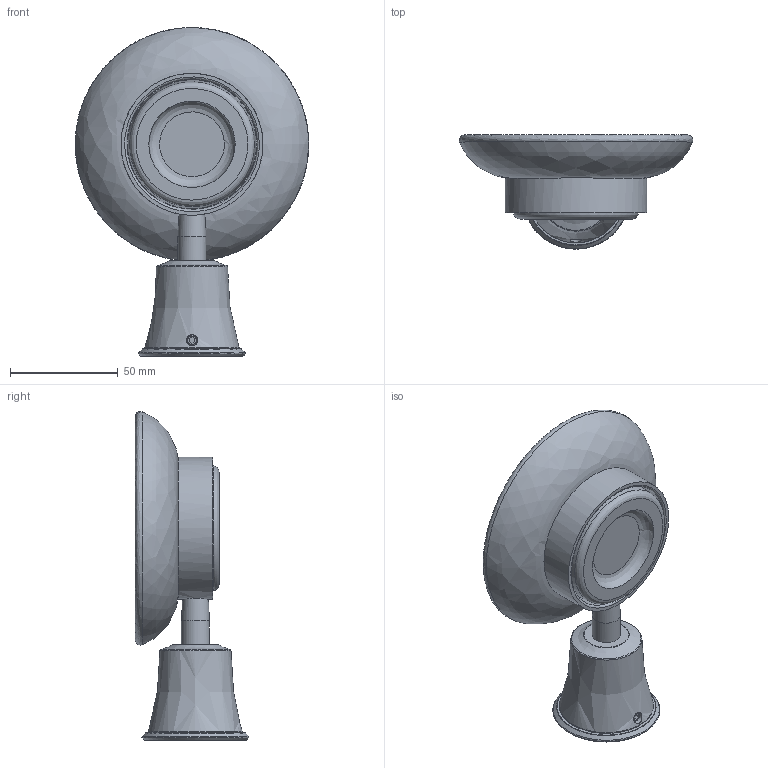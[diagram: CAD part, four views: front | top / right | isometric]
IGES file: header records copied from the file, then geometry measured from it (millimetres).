
Global section: file name: 878011a6-112b-4ea6-9513-ad026d127021; native system: unknown; preprocessor: unknown; author: unknown; organization: unknown; date: 20200107.143110; units: millimetre
Bounding box: 108.28 x 52.79 x 152.54 mm (x, y, z)
Volume: 130142 mm3; surface area: 47289.6 mm2
Topology: 4 solids, 4 shells, 50 faces, 147 edges, 109 vertices
Faces by surface type: bspline 50
